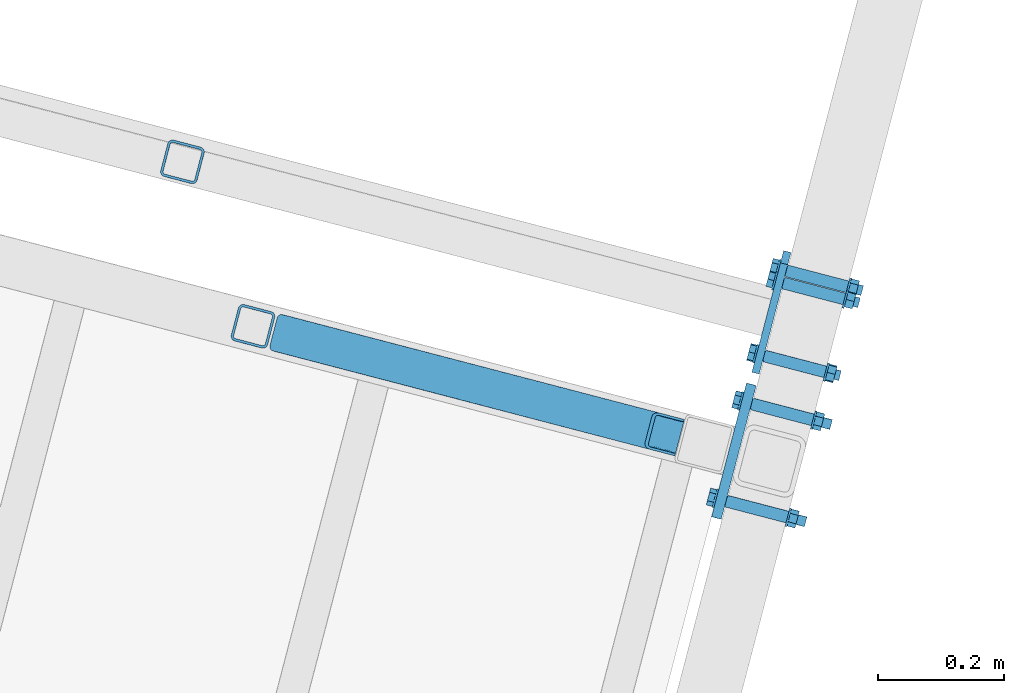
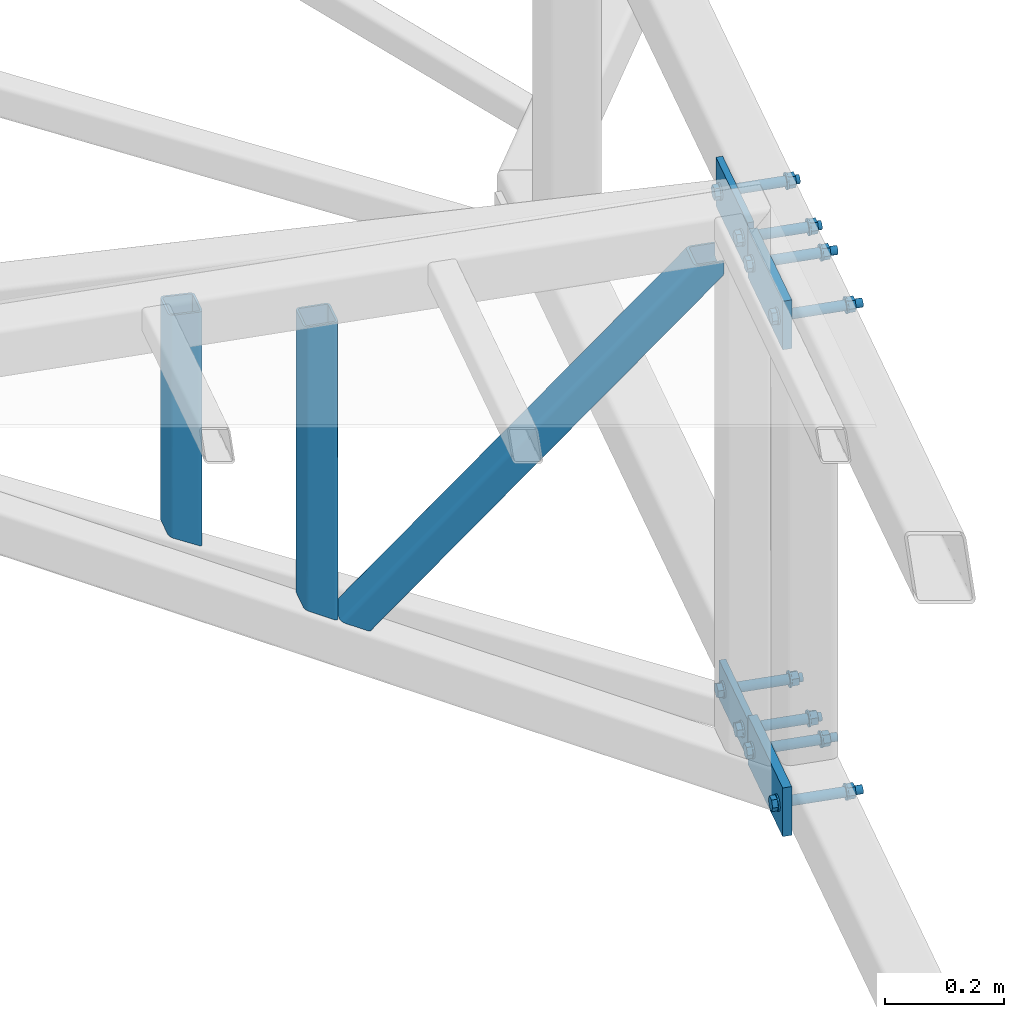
# One storey, part 84 of 169: 7 discrete accessories, 4 mechanical fasteners, 2 elements without a shape of their own.
"""IFC2X3 building model written with IfcOpenShell, lengths in millimetres."""

from ifc_helpers import new_model, si_unit, frame, frame_2d, origin_with_axes, origin_2d_with_axis, place, context, subcontext, project, spatial, polyline, circle_curve, parameter, trimmed, segment, composite_curve, rectangle, hollow_rectangle, circle, outline, extrude, boolean, clip, halfspace, source, transform, mapped, material, type_object, element, aggregate, save


model = new_model("IFC2X3")

# Units and contexts
model_context = context("Model", 3, precision=1e-05, world=origin_with_axes())
body_context = subcontext(model_context, "Body", "Model", "MODEL_VIEW")
ifc_project = project(units=[si_unit("LENGTHUNIT", "METRE", prefix="MILLI"), si_unit("AREAUNIT", "SQUARE_METRE"), si_unit("VOLUMEUNIT", "CUBIC_METRE"), si_unit("MASSUNIT", "GRAM", prefix="KILO"), si_unit("TIMEUNIT", "SECOND"), si_unit("PLANEANGLEUNIT", "RADIAN"), si_unit("SOLIDANGLEUNIT", "STERADIAN"), si_unit("THERMODYNAMICTEMPERATUREUNIT", "DEGREE_CELSIUS"), si_unit("LUMINOUSINTENSITYUNIT", "LUMEN")], contexts=[model_context])

# Site, building, storey
site_placement = place(None, origin_with_axes())
site = spatial("IfcSite", under=ifc_project, at=site_placement, Name="Undefined", CompositionType="ELEMENT")
building_placement = place(site_placement, origin_with_axes())
building = spatial("IfcBuilding", under=site, at=building_placement, Name="Undefined", CompositionType="ELEMENT")
storey_placement = place(building_placement, origin_with_axes())
storey = spatial("IfcBuildingStorey", under=building, at=storey_placement, Name="Undefined", CompositionType="ELEMENT", Elevation=0.0)

# Assembly, discrete accessories
assembly_1_placement = place(storey_placement, origin_with_axes())
assembly_1 = element("IfcElementAssembly", 1, at=assembly_1_placement, inside=storey, Name="Steel Assembly", AssemblyPlace="NOTDEFINED", PredefinedType="RIGID_FRAME")
ifc_material_1 = material(Name="STEEL/S235")
discrete_accessory_type_1 = type_object("IfcDiscreteAccessoryType", Name="BLACHA")
discrete_accessory_1_placement = place(assembly_1_placement, frame((-23014.6475762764, 10119.8996331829, 13831.7368477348), z_axis=(-0.967563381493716, 0.252628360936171, -0.000118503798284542), x_axis=(0.252628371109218, 0.967563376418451, -0.000136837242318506)))
discrete_accessory_1 = element("IfcDiscreteAccessory", 2, at=discrete_accessory_1_placement, type_object=discrete_accessory_type_1, material=ifc_material_1, Name="BLACHA", ObjectType="BL16*100", context=body_context, shape_type="SweptSolid", body=[
    extrude(outline(polyline([(-2.8421709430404e-11, 50.0000000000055), (220.000000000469, 50.0000000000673), (220.000000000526, -49.9999999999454), (2.75122147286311e-11, -50.0000000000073), (-2.8421709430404e-11, 50.0000000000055)])), frame((4.54778590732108e-13, 0.0, -8.0), z_axis=(0.0, 0.0, 1.0), x_axis=(1.0, 0.0, 0.0)), (0.0, 0.0, 1.0), 16.0),
])
discrete_accessory_2_placement = place(assembly_1_placement, frame((-23014.603041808, 10120.0700608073, 12831.430616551), z_axis=(-0.967563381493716, 0.252628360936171, -0.000118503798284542), x_axis=(0.252628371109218, 0.967563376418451, -0.000136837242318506)))
discrete_accessory_2 = element("IfcDiscreteAccessory", 3, at=discrete_accessory_2_placement, type_object=discrete_accessory_type_1, material=ifc_material_1, Name="BLACHA", ObjectType="BL16*100", context=body_context, shape_type="SweptSolid", body=[
    extrude(outline(polyline([(-2.8421709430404e-11, 50.0000000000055), (220.000000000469, 50.0000000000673), (220.000000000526, -49.9999999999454), (2.75122147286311e-11, -50.0000000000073), (-2.8421709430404e-11, 50.0000000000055)])), frame((4.54778590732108e-13, 0.0, -8.0), z_axis=(0.0, 0.0, 1.0), x_axis=(1.0, 0.0, 0.0)), (0.0, 0.0, 1.0), 16.0),
])

assembly_2_placement = place(storey_placement, origin_with_axes())
assembly_2 = element("IfcElementAssembly", 4, at=assembly_2_placement, inside=storey, Name="Steel Assembly", AssemblyPlace="NOTDEFINED", PredefinedType="RIGID_FRAME")
discrete_accessory_3_placement = place(assembly_2_placement, frame((-22952.3310688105, 10350.6538595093, 13830.7993462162), z_axis=(-0.967563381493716, 0.252628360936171, -0.000118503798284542), x_axis=(0.252628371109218, 0.967563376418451, -0.000136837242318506)))
discrete_accessory_3 = element("IfcDiscreteAccessory", 5, at=discrete_accessory_3_placement, type_object=discrete_accessory_type_1, material=ifc_material_1, Name="BLACHA", ObjectType="BL12*100", context=body_context, shape_type="SweptSolid", body=[
    extrude(outline(polyline([(-2.8421709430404e-11, 50.0000000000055), (200.000000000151, 50.0000000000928), (200.000000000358, -49.9999999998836), (2.75122147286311e-11, -50.0000000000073), (-2.8421709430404e-11, 50.0000000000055)])), frame((-1.81898942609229e-12, -1.81898940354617e-12, -5.99999999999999), z_axis=(0.0, 0.0, 1.0), x_axis=(1.0, 0.0, 0.0)), (0.0, 0.0, 1.0), 12.0),
])
discrete_accessory_4_placement = place(assembly_2_placement, frame((-22929.6072877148, 10437.6939756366, 12860.8985889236), z_axis=(-0.967563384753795, 0.252628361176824, -8.7251889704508e-05), x_axis=(4.62349999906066e-05, -0.000168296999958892, -0.999999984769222)))
discrete_accessory_4 = element("IfcDiscreteAccessory", 6, at=discrete_accessory_4_placement, type_object=discrete_accessory_type_1, material=ifc_material_1, Name="BLACHA", ObjectType="BL12*180", context=body_context, shape_type="SweptSolid", body=[
    extrude(outline(polyline([(80.0000000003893, 89.9999999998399), (80.0000000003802, -89.9999999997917), (6.18456397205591e-11, -90.0), (-6.3664629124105e-11, 90.0000000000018), (80.0000000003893, 89.9999999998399)])), frame((-1.81898942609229e-12, -1.81898940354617e-12, -5.99999999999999), z_axis=(0.0, 0.0, 1.0), x_axis=(1.0, 0.0, 0.0)), (0.0, 0.0, 1.0), 12.0),
])

# Discrete accessory
ifc_material_2 = material(Name="STEEL/S355")
discrete_accessory_type_2 = type_object("IfcDiscreteAccessoryType", Name="BEAM")
discrete_accessory_5_placement = place(assembly_1_placement, frame((-23752.5571897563, 10425.1575619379, 13305.5398662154), z_axis=(5.90399999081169e-06, 0.000139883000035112, 0.999999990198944), x_axis=(-0.252628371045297, -0.967563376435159, 0.000136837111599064)))
discrete_accessory_5 = element("IfcDiscreteAccessory", 7, at=discrete_accessory_5_placement, type_object=discrete_accessory_type_2, material=ifc_material_2, Name="BEAM", ObjectType="SHS60*4", context=body_context, shape_type="Clipping", body=[
    clip(clip(extrude(hollow_rectangle(XDim=60.0, YDim=60.0, WallThickness=4.0, InnerFilletRadius=4.0, OuterFilletRadius=8.0, at=origin_2d_with_axis()), frame((-1.36424205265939e-12, -3.63798720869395e-12, 619.928825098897), z_axis=(-2.54700353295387e-10, 0.0, -1.0), x_axis=(0.0, 1.0, 0.0)), (0.0, 0.0, 1.0), 615.13), halfspace(frame((1000.0000000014, 1.70257408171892e-09, 619.928824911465), z_axis=(-2.54700353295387e-10, 0.0, -1.0), x_axis=(0.0, 1.0, 0.0)), True)), halfspace(frame((999.999999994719, 19.9381658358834, 10.7773083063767), z_axis=(1.62111313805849e-10, 0.498454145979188, 0.866916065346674), x_axis=(3.43917918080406e-10, -0.866916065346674, 0.498454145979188)), True)),
])

discrete_accessory_6_placement = place(assembly_1_placement, frame((-23033.5355412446, 10237.5175604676, 13975.4907003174), z_axis=(-0.252628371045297, -0.967563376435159, 0.000136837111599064), x_axis=(-0.684089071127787, 0.178513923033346, -0.707216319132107)))
discrete_accessory_6 = element("IfcDiscreteAccessory", 8, at=discrete_accessory_6_placement, type_object=discrete_accessory_type_2, material=ifc_material_2, Name="BEAM", ObjectType="SHS60*4", context=body_context, shape_type="CSG", body=[
    boolean("DIFFERENCE", boolean("DIFFERENCE", boolean("DIFFERENCE", extrude(hollow_rectangle(XDim=60.0, YDim=60.0, WallThickness=4.0, InnerFilletRadius=4.0, OuterFilletRadius=8.0, at=origin_2d_with_axis()), frame((1022.86933750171, 0.0, 1.83171514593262e-12), z_axis=(-1.0, -3.46944695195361e-18, -1.38777878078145e-17), x_axis=(1.73472347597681e-18, -1.0, 0.0)), (0.0, 0.0, 1.0), 1009.83), extrude(rectangle(XDim=82.0, YDim=82.0, at=origin_2d_with_axis()), frame((-106.079306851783, -106.052725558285, 5.70384018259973e-09), z_axis=(0.707195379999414, 0.707018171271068, -6.25849388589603e-13), x_axis=(-0.707018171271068, 0.707195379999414, 1.8757681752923e-10)), (0.0, 0.0, 1.0), 300.0)), halfspace(frame((968.017070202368, -10.4168375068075, 999.999999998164), z_axis=(-0.965495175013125, -0.26042094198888, 2.56150352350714e-10), x_axis=(0.26042094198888, -0.965495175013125, 1.81617451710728e-10)), True)), halfspace(frame((35.3597688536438, 35.3509085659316, 1000.00000000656), z_axis=(0.707195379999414, 0.707018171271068, -6.25849388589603e-13), x_axis=(-0.707018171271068, 0.707195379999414, 1.8757681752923e-10)), True)),
])

discrete_accessory_7_placement = place(assembly_2_placement, frame((-23864.9216952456, 10687.1190585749, 13877.7709436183), z_axis=(-0.967563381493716, 0.252628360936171, -0.000118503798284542), x_axis=(8.00909999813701e-05, -0.000162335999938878, -0.999999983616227)))
discrete_accessory_7 = element("IfcDiscreteAccessory", 9, at=discrete_accessory_7_placement, type_object=discrete_accessory_type_2, material=ifc_material_1, Name="BEAM", ObjectType="SHS60*4", context=body_context, shape_type="Clipping", body=[
    clip(clip(extrude(hollow_rectangle(XDim=60.0, YDim=60.0, WallThickness=4.0, InnerFilletRadius=4.0, OuterFilletRadius=8.0, at=origin_2d_with_axis()), frame((535.591652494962, 1.45172408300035e-17, -1.45172408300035e-17), z_axis=(-1.0, -3.46944695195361e-18, -1.38777878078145e-17), x_axis=(1.73472347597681e-18, -1.0, 0.0)), (0.0, 0.0, 1.0), 503.97), halfspace(frame((60.6547718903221, -0.000644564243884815, 871.46288799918), z_axis=(-0.885407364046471, -2.14855854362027e-05, -0.464815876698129), x_axis=(1.90237053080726e-05, -0.999999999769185, 9.98644171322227e-06)), True)), halfspace(frame((-1.00028805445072, 7.78002686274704e-07, 1001.24921972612), z_axis=(0.998752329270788, -1.61183526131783e-08, 0.0499378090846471), x_axis=(0.0, 1.0, 0.0)), True)),
])

# Mechanical fastener
ifc_material_3 = material(Name="Undefined")
discrete_accessory_type_3 = type_object("IfcDiscreteAccessoryType", Name="Bolt assembly")
shared_shape_1 = source(origin_with_axes(), body_context, "Body", "SweptSolid", [
    extrude(circle(Radius=9.5, at=origin_2d_with_axis()), frame((0.0, 3.89999843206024, 0.0), z_axis=(0.0, 1.0, 0.0), x_axis=(1.0, 0.0, 0.0)), (0.0, 0.0, 1.0), 100.1),
    extrude(outline(composite_curve([segment(polyline([(9.5, 10.0), (9.5, -10.0)]), True, "CONTINUOUS"), segment(trimmed(circle_curve(frame_2d((0.0, -10.0), x_axis=(1.0, 0.0)), 9.5), [parameter(0.0)], [parameter(3.14159265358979)], False, "PARAMETER"), True, "CONTINUOUS"), segment(polyline([(-9.5, -10.0), (-9.5, 10.0)]), True, "CONTINUOUS"), segment(trimmed(circle_curve(frame_2d((0.0, 10.0), x_axis=(-1.0, 0.0)), 9.5), [parameter(0.0)], [parameter(3.14159265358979)], False, "PARAMETER"), True, "DISCONTINUOUS")], self_intersect=False)), frame((0.0, -12.9000000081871, 0.0), z_axis=(0.0, 1.0, 0.0), x_axis=(1.0, 0.0, 0.0)), (0.0, 0.0, 1.0), 16.0),
    extrude(outline(polyline([(13.85640646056, 0.0), (6.92820323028, 12.0000000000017), (-6.92820323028, 12.0000000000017), (-13.85640646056, 0.0), (-6.92820323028, -12.0000000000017), (6.92820323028, -12.0000000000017), (13.85640646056, 0.0)])), frame((0.0, -26.0000000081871, 0.0), z_axis=(0.0, 1.0, 0.0), x_axis=(1.0, 0.0, 0.0)), (0.0, 0.0, 1.0), 10.0),
    extrude(circle(Radius=8.0, at=origin_2d_with_axis()), frame((0.0, -16.0000000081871, 0.0), z_axis=(0.0, 1.0, 0.0), x_axis=(1.0, 0.0, 0.0)), (0.0, 0.0, 1.0), 150.0),
    extrude(circle(Radius=15.0, at=origin_2d_with_axis()), frame((0.0, -16.0000000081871, 0.0), z_axis=(0.0, 1.0, 0.0), x_axis=(1.0, 0.0, 0.0)), (0.0, 0.0, 1.0), 3.0),
    extrude(circle(Radius=15.0, at=origin_2d_with_axis()), frame((0.0, 103.999998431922, 0.0), z_axis=(0.0, 1.0, 0.0), x_axis=(1.0, 0.0, 0.0)), (0.0, 0.0, 1.0), 3.0),
    extrude(outline(polyline([(13.85640646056, 0.0), (6.92820323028, 12.0000000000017), (-6.92820323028, 12.0000000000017), (-13.85640646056, 0.0), (-6.92820323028, -12.0000000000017), (6.92820323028, -12.0000000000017), (13.85640646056, 0.0)])), frame((0.0, 106.999998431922, 0.0), z_axis=(0.0, 1.0, 0.0), x_axis=(1.0, 0.0, 0.0)), (0.0, 0.0, 1.0), 13.0),
])
mechanical_fastener_1_placement = place(assembly_1_placement, frame((-22961.8103678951, 10302.4735326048, 13831.7110856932), z_axis=(-8.00909999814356e-05, 0.000162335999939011, 0.999999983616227), x_axis=(-0.252628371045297, -0.967563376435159, 0.000136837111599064)))
mechanical_fastener_1 = element("IfcMechanicalFastener", 10, at=mechanical_fastener_1_placement, type_object=discrete_accessory_type_3, material=ifc_material_3, Name="Bolt assembly", NominalDiameter=16.0, NominalLength=150.0, context=body_context, shape_type="MappedRepresentation", body=[
    mapped(shared_shape_1, transform((0.0, 0.0, 0.0))),
    mapped(shared_shape_1, transform((159.999999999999, -3.45607986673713e-10, -1.67347025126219e-10))),
])

shared_shape_2 = source(origin_with_axes(), body_context, "Body", "SweptSolid", [
    extrude(circle(Radius=9.5, at=origin_2d_with_axis()), frame((0.0, 5.8999994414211, 0.0), z_axis=(0.0, 1.0, 0.0), x_axis=(1.0, 0.0, 0.0)), (0.0, 0.0, 1.0), 100.1),
    extrude(outline(composite_curve([segment(polyline([(9.5, 10.0), (9.5, -10.0)]), True, "CONTINUOUS"), segment(trimmed(circle_curve(frame_2d((0.0, -10.0), x_axis=(1.0, 0.0)), 9.5), [parameter(0.0)], [parameter(3.14159265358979)], False, "PARAMETER"), True, "CONTINUOUS"), segment(polyline([(-9.5, -10.0), (-9.5, 10.0)]), True, "CONTINUOUS"), segment(trimmed(circle_curve(frame_2d((0.0, 10.0), x_axis=(-1.0, 0.0)), 9.5), [parameter(0.0)], [parameter(3.14159265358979)], False, "PARAMETER"), True, "DISCONTINUOUS")], self_intersect=False)), frame((0.0, -10.9000001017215, 0.0), z_axis=(0.0, 1.0, 0.0), x_axis=(1.0, 0.0, 0.0)), (0.0, 0.0, 1.0), 16.0),
    extrude(outline(polyline([(13.85640646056, 0.0), (6.92820323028, 12.0000000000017), (-6.92820323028, 12.0000000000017), (-13.85640646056, 0.0), (-6.92820323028, -12.0000000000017), (6.92820323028, -12.0000000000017), (13.85640646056, 0.0)])), frame((0.0, -24.0000001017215, 0.0), z_axis=(0.0, 1.0, 0.0), x_axis=(1.0, 0.0, 0.0)), (0.0, 0.0, 1.0), 10.0),
    extrude(circle(Radius=8.0, at=origin_2d_with_axis()), frame((0.0, -14.0000001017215, 0.0), z_axis=(0.0, 1.0, 0.0), x_axis=(1.0, 0.0, 0.0)), (0.0, 0.0, 1.0), 150.0),
    extrude(circle(Radius=15.0, at=origin_2d_with_axis()), frame((0.0, -14.0000001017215, 0.0), z_axis=(0.0, 1.0, 0.0), x_axis=(1.0, 0.0, 0.0)), (0.0, 0.0, 1.0), 3.0),
    extrude(circle(Radius=15.0, at=origin_2d_with_axis()), frame((0.0, 105.999999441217, 0.0), z_axis=(0.0, 1.0, 0.0), x_axis=(1.0, 0.0, 0.0)), (0.0, 0.0, 1.0), 3.0),
    extrude(outline(polyline([(13.85640646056, 0.0), (6.92820323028, 12.0000000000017), (-6.92820323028, 12.0000000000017), (-13.85640646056, 0.0), (-6.92820323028, -12.0000000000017), (6.92820323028, -12.0000000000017), (13.85640646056, 0.0)])), frame((0.0, 108.999999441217, 0.0), z_axis=(0.0, 1.0, 0.0), x_axis=(1.0, 0.0, 0.0)), (0.0, 0.0, 1.0), 13.0),
])
mechanical_fastener_2_placement = place(assembly_1_placement, frame((-22963.7009599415, 10303.1492169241, 12831.404972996), z_axis=(-8.00909999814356e-05, 0.000162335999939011, 0.999999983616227), x_axis=(-0.252628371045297, -0.967563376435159, 0.000136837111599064)))
mechanical_fastener_2 = element("IfcMechanicalFastener", 11, at=mechanical_fastener_2_placement, type_object=discrete_accessory_type_3, material=ifc_material_3, Name="Bolt assembly", NominalDiameter=16.0, NominalLength=150.0, context=body_context, shape_type="MappedRepresentation", body=[
    mapped(shared_shape_2, transform((0.0, 0.0, 0.0))),
    mapped(shared_shape_2, transform((159.999999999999, -3.45607986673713e-10, -1.67347025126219e-10))),
])

aggregate(assembly_1, [mechanical_fastener_1, discrete_accessory_1, mechanical_fastener_2, discrete_accessory_2, discrete_accessory_5, discrete_accessory_6])

shared_shape_3 = source(origin_with_axes(), body_context, "Body", "SweptSolid", [
    extrude(circle(Radius=9.5, at=origin_2d_with_axis()), frame((0.0, 3.89999843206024, 0.0), z_axis=(0.0, 1.0, 0.0), x_axis=(1.0, 0.0, 0.0)), (0.0, 0.0, 1.0), 100.1),
    extrude(outline(composite_curve([segment(polyline([(9.5, 10.0), (9.5, -10.0)]), True, "CONTINUOUS"), segment(trimmed(circle_curve(frame_2d((0.0, -10.0), x_axis=(1.0, 0.0)), 9.5), [parameter(0.0)], [parameter(3.14159265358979)], False, "PARAMETER"), True, "CONTINUOUS"), segment(polyline([(-9.5, -10.0), (-9.5, 10.0)]), True, "CONTINUOUS"), segment(trimmed(circle_curve(frame_2d((0.0, 10.0), x_axis=(-1.0, 0.0)), 9.5), [parameter(0.0)], [parameter(3.14159265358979)], False, "PARAMETER"), True, "DISCONTINUOUS")], self_intersect=False)), frame((0.0, -8.89999998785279, 0.0), z_axis=(0.0, 1.0, 0.0), x_axis=(1.0, 0.0, 0.0)), (0.0, 0.0, 1.0), 12.0),
    extrude(outline(polyline([(13.85640646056, 0.0), (6.92820323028, 12.0000000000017), (-6.92820323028, 12.0000000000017), (-13.85640646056, 0.0), (-6.92820323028, -12.0000000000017), (6.92820323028, -12.0000000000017), (13.85640646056, 0.0)])), frame((0.0, -21.9999999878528, 0.0), z_axis=(0.0, 1.0, 0.0), x_axis=(1.0, 0.0, 0.0)), (0.0, 0.0, 1.0), 10.0),
    extrude(circle(Radius=8.0, at=origin_2d_with_axis()), frame((0.0, -11.9999999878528, 0.0), z_axis=(0.0, 1.0, 0.0), x_axis=(1.0, 0.0, 0.0)), (0.0, 0.0, 1.0), 140.0),
    extrude(circle(Radius=15.0, at=origin_2d_with_axis()), frame((0.0, -11.9999999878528, 0.0), z_axis=(0.0, 1.0, 0.0), x_axis=(1.0, 0.0, 0.0)), (0.0, 0.0, 1.0), 3.0),
    extrude(circle(Radius=15.0, at=origin_2d_with_axis()), frame((0.0, 103.999998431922, 0.0), z_axis=(0.0, 1.0, 0.0), x_axis=(1.0, 0.0, 0.0)), (0.0, 0.0, 1.0), 3.0),
    extrude(outline(polyline([(13.85640646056, 0.0), (6.92820323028, 12.0000000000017), (-6.92820323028, 12.0000000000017), (-13.85640646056, 0.0), (-6.92820323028, -12.0000000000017), (6.92820323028, -12.0000000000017), (13.85640646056, 0.0)])), frame((0.0, 106.999998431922, 0.0), z_axis=(0.0, 1.0, 0.0), x_axis=(1.0, 0.0, 0.0)), (0.0, 0.0, 1.0), 13.0),
])
mechanical_fastener_3_placement = place(assembly_2_placement, frame((-22906.4815544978, 10514.3817481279, 13830.7764394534), z_axis=(-8.00909999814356e-05, 0.000162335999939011, 0.999999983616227), x_axis=(-0.252628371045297, -0.967563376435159, 0.000136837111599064)))
mechanical_fastener_3 = element("IfcMechanicalFastener", 12, at=mechanical_fastener_3_placement, type_object=discrete_accessory_type_3, material=ifc_material_3, Name="Bolt assembly", NominalDiameter=16.0, NominalLength=140.0, context=body_context, shape_type="MappedRepresentation", body=[
    mapped(shared_shape_3, transform((0.0, 0.0, 0.0))),
    mapped(shared_shape_3, transform((139.999999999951, -4.15525391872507e-11, -3.09228198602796e-11))),
])

shared_shape_4 = source(origin_with_axes(), body_context, "Body", "SweptSolid", [
    extrude(circle(Radius=9.5, at=origin_2d_with_axis()), frame((0.0, 3.89978668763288, 0.0), z_axis=(0.0, 1.0, 0.0), x_axis=(1.0, 0.0, 0.0)), (0.0, 0.0, 1.0), 100.1),
    extrude(outline(composite_curve([segment(polyline([(-10.0, 9.5), (10.0, 9.5)]), True, "CONTINUOUS"), segment(trimmed(circle_curve(frame_2d((10.0, 0.0), x_axis=(0.0, 1.0)), 9.5), [parameter(0.0)], [parameter(3.14159265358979)], False, "PARAMETER"), True, "CONTINUOUS"), segment(polyline([(10.0, -9.5), (-10.0, -9.5)]), True, "CONTINUOUS"), segment(trimmed(circle_curve(frame_2d((-10.0, 0.0), x_axis=(0.0, -1.0)), 9.5), [parameter(0.0)], [parameter(3.14159265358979)], False, "PARAMETER"), True, "DISCONTINUOUS")], self_intersect=False)), frame((0.0, -8.89999998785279, 0.0), z_axis=(0.0, 1.0, 0.0), x_axis=(1.0, 0.0, 0.0)), (0.0, 0.0, 1.0), 12.0),
    extrude(outline(polyline([(13.85640646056, 0.0), (6.92820323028, 12.0000000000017), (-6.92820323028, 12.0000000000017), (-13.85640646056, 0.0), (-6.92820323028, -12.0000000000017), (6.92820323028, -12.0000000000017), (13.85640646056, 0.0)])), frame((0.0, -21.9999999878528, 0.0), z_axis=(0.0, 1.0, 0.0), x_axis=(1.0, 0.0, 0.0)), (0.0, 0.0, 1.0), 10.0),
    extrude(circle(Radius=8.0, at=origin_2d_with_axis()), frame((0.0, -11.9999999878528, 0.0), z_axis=(0.0, 1.0, 0.0), x_axis=(1.0, 0.0, 0.0)), (0.0, 0.0, 1.0), 140.0),
    extrude(circle(Radius=15.0, at=origin_2d_with_axis()), frame((0.0, -11.9999999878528, 0.0), z_axis=(0.0, 1.0, 0.0), x_axis=(1.0, 0.0, 0.0)), (0.0, 0.0, 1.0), 3.0),
    extrude(circle(Radius=15.0, at=origin_2d_with_axis()), frame((0.0, 103.999786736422, 0.0), z_axis=(0.0, 1.0, 0.0), x_axis=(1.0, 0.0, 0.0)), (0.0, 0.0, 1.0), 3.0),
    extrude(outline(polyline([(13.85640646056, 0.0), (6.92820323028, 12.0000000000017), (-6.92820323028, 12.0000000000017), (-13.85640646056, 0.0), (-6.92820323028, -12.0000000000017), (6.92820323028, -12.0000000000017), (13.85640646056, 0.0)])), frame((0.0, 106.999786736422, 0.0), z_axis=(0.0, 1.0, 0.0), x_axis=(1.0, 0.0, 0.0)), (0.0, 0.0, 1.0), 13.0),
])
mechanical_fastener_4_placement = place(assembly_2_placement, frame((-22926.7027481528, 10436.929358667, 12820.8988507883), z_axis=(0.25262837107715, 0.967563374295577, -0.000151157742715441), x_axis=(-4.62350000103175e-05, 0.000168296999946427, 0.999999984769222)))
mechanical_fastener_4 = element("IfcMechanicalFastener", 13, at=mechanical_fastener_4_placement, type_object=discrete_accessory_type_3, material=ifc_material_3, Name="Bolt assembly", NominalDiameter=16.0, NominalLength=140.0, context=body_context, shape_type="MappedRepresentation", body=[
    mapped(shared_shape_4, transform((1.18234311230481e-11, 9.20081788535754e-11, -60.0000000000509))),
    mapped(shared_shape_4, transform((-1.2732925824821e-11, -9.20223897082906e-11, 60.0000000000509))),
])

aggregate(assembly_2, [mechanical_fastener_3, discrete_accessory_3, mechanical_fastener_4, discrete_accessory_4, discrete_accessory_7])

save(model, "model.ifc")
